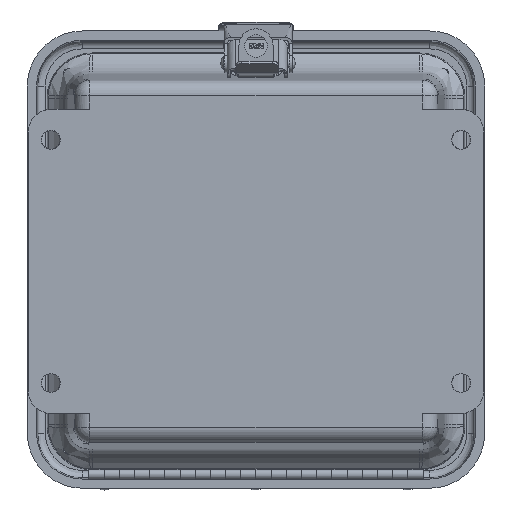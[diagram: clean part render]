
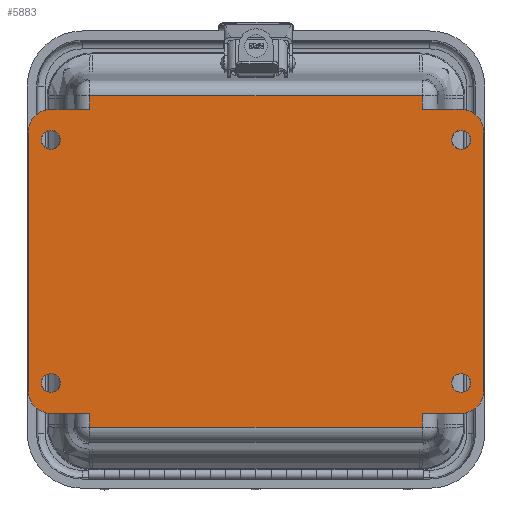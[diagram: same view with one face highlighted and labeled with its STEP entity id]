
A CAD part, front view. The second image highlights one B-rep face of the part: STEP entity #5883.
In plain terms, the highlighted planar face has unit normal (0, -1, 0) as drawn and (0, 0, 1) by its records, which use the part's own axes.
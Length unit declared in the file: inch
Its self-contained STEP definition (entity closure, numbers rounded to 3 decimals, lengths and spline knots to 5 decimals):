
#1145=CARTESIAN_POINT('',(-3.219,-2.0,4.625));
#1146=VERTEX_POINT('',#1145);
#1147=CARTESIAN_POINT('',(-3.375,-2.0,4.625));
#1148=DIRECTION('',(0.0,0.0,-1.0));
#1149=DIRECTION('',(-1.0,0.0,0.0));
#1150=AXIS2_PLACEMENT_3D('',#1147,#1148,#1149);
#1151=CIRCLE('',#1150,0.156);
#1152=EDGE_CURVE('',#1146,#1146,#1151,.T.);
#1173=CARTESIAN_POINT('',(3.531,-2.0,4.625));
#1174=VERTEX_POINT('',#1173);
#1175=CARTESIAN_POINT('',(3.375,-2.0,4.625));
#1176=DIRECTION('',(0.0,0.0,-1.0));
#1177=DIRECTION('',(-1.0,0.0,0.0));
#1178=AXIS2_PLACEMENT_3D('',#1175,#1176,#1177);
#1179=CIRCLE('',#1178,0.156);
#1180=EDGE_CURVE('',#1174,#1174,#1179,.T.);
#1201=CARTESIAN_POINT('',(3.531,2.0,4.625));
#1202=VERTEX_POINT('',#1201);
#1203=CARTESIAN_POINT('',(3.375,2.0,4.625));
#1204=DIRECTION('',(0.0,0.0,-1.0));
#1205=DIRECTION('',(-1.0,0.0,0.0));
#1206=AXIS2_PLACEMENT_3D('',#1203,#1204,#1205);
#1207=CIRCLE('',#1206,0.156);
#1208=EDGE_CURVE('',#1202,#1202,#1207,.T.);
#1229=CARTESIAN_POINT('',(-3.219,2.0,4.625));
#1230=VERTEX_POINT('',#1229);
#1231=CARTESIAN_POINT('',(-3.375,2.0,4.625));
#1232=DIRECTION('',(0.0,0.0,-1.0));
#1233=DIRECTION('',(-1.0,0.0,0.0));
#1234=AXIS2_PLACEMENT_3D('',#1231,#1232,#1233);
#1235=CIRCLE('',#1234,0.156);
#1236=EDGE_CURVE('',#1230,#1230,#1235,.T.);
#5301=CARTESIAN_POINT('',(-2.73824,-2.5,4.625));
#5302=VERTEX_POINT('',#5301);
#5312=CARTESIAN_POINT('',(-3.375,-2.5,4.625));
#5313=VERTEX_POINT('',#5312);
#5314=CARTESIAN_POINT('',(-2.73824,-2.5,4.625));
#5315=DIRECTION('',(-1.0,0.0,0.0));
#5316=VECTOR('',#5315,0.63676);
#5317=LINE('',#5314,#5316);
#5318=EDGE_CURVE('',#5302,#5313,#5317,.T.);
#5352=CARTESIAN_POINT('',(-2.73824,-2.73024,4.625));
#5353=VERTEX_POINT('',#5352);
#5377=CARTESIAN_POINT('',(-2.73824,-2.73024,4.625));
#5378=DIRECTION('',(0.0,1.0,0.0));
#5379=VECTOR('',#5378,0.23024);
#5380=LINE('',#5377,#5379);
#5381=EDGE_CURVE('',#5353,#5302,#5380,.T.);
#5481=CARTESIAN_POINT('',(-2.73824,2.5,4.625));
#5482=VERTEX_POINT('',#5481);
#5490=CARTESIAN_POINT('',(-2.73824,2.73024,4.625));
#5491=VERTEX_POINT('',#5490);
#5492=CARTESIAN_POINT('',(-2.73824,2.5,4.625));
#5493=DIRECTION('',(0.0,1.0,0.0));
#5494=VECTOR('',#5493,0.23024);
#5495=LINE('',#5492,#5494);
#5496=EDGE_CURVE('',#5482,#5491,#5495,.T.);
#5530=CARTESIAN_POINT('',(-3.375,2.5,4.625));
#5531=VERTEX_POINT('',#5530);
#5532=CARTESIAN_POINT('',(-3.375,2.5,4.625));
#5533=DIRECTION('',(1.0,0.0,0.0));
#5534=VECTOR('',#5533,0.63676);
#5535=LINE('',#5532,#5534);
#5536=EDGE_CURVE('',#5531,#5482,#5535,.T.);
#5639=CARTESIAN_POINT('',(2.73824,2.73024,4.625));
#5640=VERTEX_POINT('',#5639);
#5685=CARTESIAN_POINT('',(-2.73824,2.73024,4.625));
#5686=DIRECTION('',(1.0,0.0,0.0));
#5687=VECTOR('',#5686,5.47647);
#5688=LINE('',#5685,#5687);
#5689=EDGE_CURVE('',#5491,#5640,#5688,.T.);
#5707=CARTESIAN_POINT('',(2.73824,2.5,4.625));
#5708=VERTEX_POINT('',#5707);
#5736=CARTESIAN_POINT('',(2.73824,2.73024,4.625));
#5737=DIRECTION('',(0.0,-1.0,0.0));
#5738=VECTOR('',#5737,0.23024);
#5739=LINE('',#5736,#5738);
#5740=EDGE_CURVE('',#5640,#5708,#5739,.T.);
#5750=CARTESIAN_POINT('',(3.375,2.5,4.625));
#5751=VERTEX_POINT('',#5750);
#5752=CARTESIAN_POINT('',(2.73824,2.5,4.625));
#5753=DIRECTION('',(1.0,0.0,0.0));
#5754=VECTOR('',#5753,0.63676);
#5755=LINE('',#5752,#5754);
#5756=EDGE_CURVE('',#5708,#5751,#5755,.T.);
#5785=CARTESIAN_POINT('',(0.,0.0,4.625));
#5786=DIRECTION('',(0.0,0.0,1.0));
#5787=DIRECTION('',(1.0,0.0,0.0));
#5788=AXIS2_PLACEMENT_3D('',#5785,#5786,#5787);
#5789=PLANE('',#5788);
#5790=ORIENTED_EDGE('',*,*,#5318,.F.);
#5791=ORIENTED_EDGE('',*,*,#5381,.F.);
#5792=CARTESIAN_POINT('',(2.73824,-2.73024,4.625));
#5793=VERTEX_POINT('',#5792);
#5794=CARTESIAN_POINT('',(2.73824,-2.73024,4.625));
#5795=DIRECTION('',(-1.0,0.0,0.0));
#5796=VECTOR('',#5795,5.47647);
#5797=LINE('',#5794,#5796);
#5798=EDGE_CURVE('',#5793,#5353,#5797,.T.);
#5799=ORIENTED_EDGE('',*,*,#5798,.F.);
#5800=CARTESIAN_POINT('',(2.73824,-2.5,4.625));
#5801=VERTEX_POINT('',#5800);
#5802=CARTESIAN_POINT('',(2.73824,-2.5,4.625));
#5803=DIRECTION('',(0.0,-1.0,0.0));
#5804=VECTOR('',#5803,0.23024);
#5805=LINE('',#5802,#5804);
#5806=EDGE_CURVE('',#5801,#5793,#5805,.T.);
#5807=ORIENTED_EDGE('',*,*,#5806,.F.);
#5808=CARTESIAN_POINT('',(3.375,-2.5,4.625));
#5809=VERTEX_POINT('',#5808);
#5810=CARTESIAN_POINT('',(3.375,-2.5,4.625));
#5811=DIRECTION('',(-1.0,0.0,0.0));
#5812=VECTOR('',#5811,0.63676);
#5813=LINE('',#5810,#5812);
#5814=EDGE_CURVE('',#5809,#5801,#5813,.T.);
#5815=ORIENTED_EDGE('',*,*,#5814,.F.);
#5816=CARTESIAN_POINT('',(3.75,-2.125,4.625));
#5817=VERTEX_POINT('',#5816);
#5818=CARTESIAN_POINT('',(3.375,-2.125,4.625));
#5819=DIRECTION('',(0.0,0.0,-1.));
#5820=DIRECTION('',(0.707,-0.707,0.0));
#5821=AXIS2_PLACEMENT_3D('',#5818,#5819,#5820);
#5822=CIRCLE('',#5821,0.375);
#5823=EDGE_CURVE('',#5817,#5809,#5822,.T.);
#5824=ORIENTED_EDGE('',*,*,#5823,.F.);
#5825=CARTESIAN_POINT('',(3.75,2.125,4.625));
#5826=VERTEX_POINT('',#5825);
#5827=CARTESIAN_POINT('',(3.75,2.125,4.625));
#5828=DIRECTION('',(0.0,-1.0,0.0));
#5829=VECTOR('',#5828,4.25);
#5830=LINE('',#5827,#5829);
#5831=EDGE_CURVE('',#5826,#5817,#5830,.T.);
#5832=ORIENTED_EDGE('',*,*,#5831,.F.);
#5833=CARTESIAN_POINT('',(3.375,2.125,4.625));
#5834=DIRECTION('',(0.0,0.0,-1.0));
#5835=DIRECTION('',(0.707,0.707,0.0));
#5836=AXIS2_PLACEMENT_3D('',#5833,#5834,#5835);
#5837=CIRCLE('',#5836,0.375);
#5838=EDGE_CURVE('',#5751,#5826,#5837,.T.);
#5839=ORIENTED_EDGE('',*,*,#5838,.F.);
#5840=ORIENTED_EDGE('',*,*,#5756,.F.);
#5841=ORIENTED_EDGE('',*,*,#5740,.F.);
#5842=ORIENTED_EDGE('',*,*,#5689,.F.);
#5843=ORIENTED_EDGE('',*,*,#5496,.F.);
#5844=ORIENTED_EDGE('',*,*,#5536,.F.);
#5845=CARTESIAN_POINT('',(-3.75,2.125,4.625));
#5846=VERTEX_POINT('',#5845);
#5847=CARTESIAN_POINT('',(-3.375,2.125,4.625));
#5848=DIRECTION('',(0.0,0.0,-1.0));
#5849=DIRECTION('',(-0.707,0.707,0.0));
#5850=AXIS2_PLACEMENT_3D('',#5847,#5848,#5849);
#5851=CIRCLE('',#5850,0.375);
#5852=EDGE_CURVE('',#5846,#5531,#5851,.T.);
#5853=ORIENTED_EDGE('',*,*,#5852,.F.);
#5854=CARTESIAN_POINT('',(-3.75,-2.125,4.625));
#5855=VERTEX_POINT('',#5854);
#5856=CARTESIAN_POINT('',(-3.75,2.125,4.625));
#5857=DIRECTION('',(0.0,-1.0,0.0));
#5858=VECTOR('',#5857,4.25);
#5859=LINE('',#5856,#5858);
#5860=EDGE_CURVE('',#5846,#5855,#5859,.T.);
#5861=ORIENTED_EDGE('',*,*,#5860,.T.);
#5862=CARTESIAN_POINT('',(-3.375,-2.125,4.625));
#5863=DIRECTION('',(0.0,0.0,-1.));
#5864=DIRECTION('',(-0.707,-0.707,0.0));
#5865=AXIS2_PLACEMENT_3D('',#5862,#5863,#5864);
#5866=CIRCLE('',#5865,0.375);
#5867=EDGE_CURVE('',#5313,#5855,#5866,.T.);
#5868=ORIENTED_EDGE('',*,*,#5867,.F.);
#5869=EDGE_LOOP('',(#5790,#5791,#5799,#5807,#5815,#5824,#5832,#5839,#5840,#5841,#5842,#5843,#5844,#5853,#5861,#5868));
#5870=FACE_OUTER_BOUND('',#5869,.T.);
#5871=ORIENTED_EDGE('',*,*,#1152,.T.);
#5872=EDGE_LOOP('',(#5871));
#5873=FACE_BOUND('',#5872,.T.);
#5874=ORIENTED_EDGE('',*,*,#1180,.T.);
#5875=EDGE_LOOP('',(#5874));
#5876=FACE_BOUND('',#5875,.T.);
#5877=ORIENTED_EDGE('',*,*,#1208,.T.);
#5878=EDGE_LOOP('',(#5877));
#5879=FACE_BOUND('',#5878,.T.);
#5880=ORIENTED_EDGE('',*,*,#1236,.T.);
#5881=EDGE_LOOP('',(#5880));
#5882=FACE_BOUND('',#5881,.T.);
#5883=ADVANCED_FACE('',(#5870,#5873,#5876,#5879,#5882),#5789,.T.);
